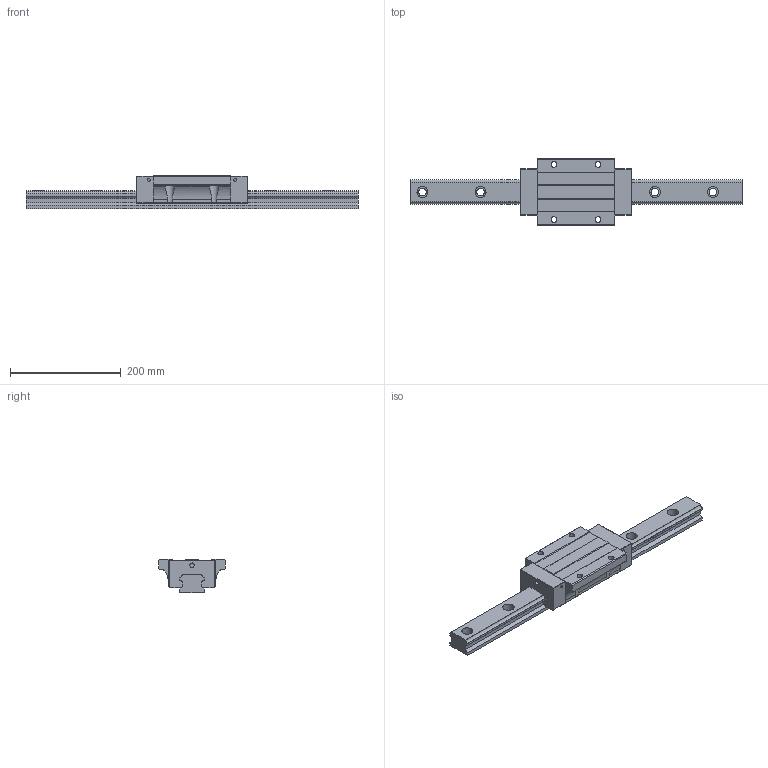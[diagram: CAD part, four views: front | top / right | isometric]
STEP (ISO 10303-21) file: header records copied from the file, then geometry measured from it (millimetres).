
FILE_DESCRIPTION (( 'STEP AP203' ), '1' );
FILE_NAME ('TRH45FE-DZ.STEP', '2024-07-04T06:33:26', ( '' ), ( '' ), 'SwSTEP 2.0', 'SolidWorks 2022', '' );
FILE_SCHEMA (( 'CONFIG_CONTROL_DESIGN' ));
Length unit declared in the file: millimetre
Products named in the file (1): TRH45FE-DZ
Bounding box: 600 x 120 x 60 mm (x, y, z)
Volume: 1454044.4 mm3; surface area: 191687.9 mm2
Topology: 2 solids, 2 shells, 214 faces, 582 edges, 380 vertices
Faces by surface type: cylinder 114, plane 96, sphere 4
Entity records: 7369 total; most frequent: CARTESIAN_POINT 1749, DIRECTION 1172, ORIENTED_EDGE 1156, EDGE_CURVE 578, AXIS2_PLACEMENT_3D 411, VERTEX_POINT 380, LINE 350, VECTOR 350
